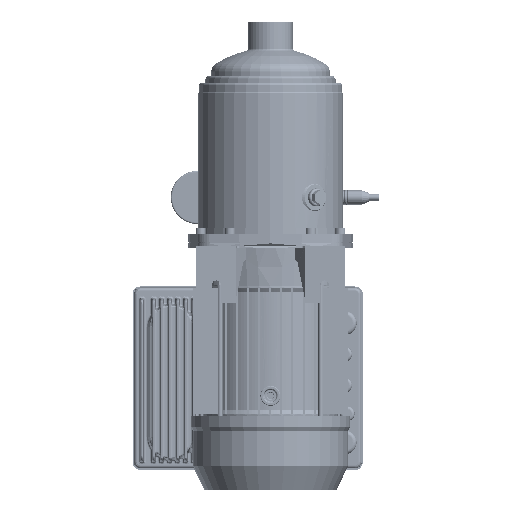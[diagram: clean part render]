
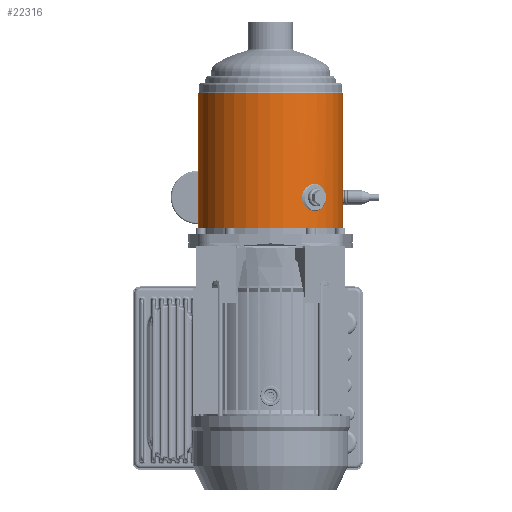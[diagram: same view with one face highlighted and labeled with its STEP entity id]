
A CAD part, front view. The second image highlights one B-rep face of the part: STEP entity #22316.
In plain terms, the highlighted cylindrical face has radius 72 mm (diameter 144 mm), a partial arc.
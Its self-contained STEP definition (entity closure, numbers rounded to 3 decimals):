
#19451=CARTESIAN_POINT('',(0.,8.4,0.));
#19452=DIRECTION('',(0.,1.,0.));
#19453=DIRECTION('',(0.,0.,-1.));
#19454=AXIS2_PLACEMENT_3D('',#19451,#19452,#19453);
#19525=DIRECTION('',(0.,1.,0.));
#19526=VECTOR('',#19525,134.614);
#19527=CARTESIAN_POINT('',(0.,8.4,-72.));
#19528=LINE('',#19527,#19526);
#19532=DIRECTION('',(0.,-1.,0.));
#19533=VECTOR('',#19532,134.614);
#19534=CARTESIAN_POINT('',(0.,143.014,72.));
#19535=LINE('',#19534,#19533);
#19539=CARTESIAN_POINT('',(-64.772,39.,
31.441));
#19540=CARTESIAN_POINT('',(-64.772,37.551,
31.441));
#19541=CARTESIAN_POINT('',(-64.552,34.753,
31.901));
#19542=CARTESIAN_POINT('',(-63.436,30.588,
34.11));
#19543=CARTESIAN_POINT('',(-61.387,27.256,
37.728));
#19544=CARTESIAN_POINT('',(-58.476,25.423,
42.129));
#19545=CARTESIAN_POINT('',(-55.02,25.424,
46.552));
#19546=CARTESIAN_POINT('',(-51.454,27.259,
50.441));
#19547=CARTESIAN_POINT('',(-48.44,30.593,
53.303));
#19548=CARTESIAN_POINT('',(-46.568,34.76,
54.919));
#19549=CARTESIAN_POINT('',(-46.177,37.554,
55.242));
#19550=CARTESIAN_POINT('',(-46.177,39.,
55.242));
#19555=CARTESIAN_POINT('',(-46.177,39.,
55.242));
#19556=CARTESIAN_POINT('',(-46.177,40.449,
55.242));
#19557=CARTESIAN_POINT('',(-46.57,43.247,
54.917));
#19558=CARTESIAN_POINT('',(-48.443,47.412,
53.3));
#19559=CARTESIAN_POINT('',(-51.458,50.744,
50.436));
#19560=CARTESIAN_POINT('',(-55.024,52.577,
46.547));
#19561=CARTESIAN_POINT('',(-58.48,52.576,
42.123));
#19562=CARTESIAN_POINT('',(-61.39,50.741,
37.722));
#19563=CARTESIAN_POINT('',(-63.438,47.407,
34.106));
#19564=CARTESIAN_POINT('',(-64.554,43.24,
31.898));
#19565=CARTESIAN_POINT('',(-64.772,40.446,
31.441));
#19566=CARTESIAN_POINT('',(-64.772,39.,
31.441));
#19579=CARTESIAN_POINT('',(0.,143.014,0.));
#19580=DIRECTION('',(0.,-1.,0.));
#19581=DIRECTION('',(0.,0.,1.));
#19582=AXIS2_PLACEMENT_3D('',#19579,#19580,#19581);
#21571=CARTESIAN_POINT('',(0.,8.4,72.));
#21572=CARTESIAN_POINT('',(0.,8.4,-72.));
#21573=VERTEX_POINT('',#21571);
#21574=VERTEX_POINT('',#21572);
#21575=CARTESIAN_POINT('',(0.,143.014,-72.));
#21576=VERTEX_POINT('',#21575);
#21577=CARTESIAN_POINT('',(0.,143.014,72.));
#21578=VERTEX_POINT('',#21577);
#21583=VERTEX_POINT('',#19539);
#21584=VERTEX_POINT('',#19550);
#22298=CARTESIAN_POINT('',(0.,145.707,0.));
#22299=DIRECTION('',(0.,-1.,0.));
#22300=DIRECTION('',(0.,0.,1.));
#22301=AXIS2_PLACEMENT_3D('',#22298,#22299,#22300);
#22302=CYLINDRICAL_SURFACE('',#22301,72.);
#22303=ORIENTED_EDGE('',*,*,#22276,.T.);
#22305=ORIENTED_EDGE('',*,*,#22304,.F.);
#22306=ORIENTED_EDGE('',*,*,#22279,.T.);
#22307=ORIENTED_EDGE('',*,*,#22266,.F.);
#22308=EDGE_LOOP('',(#22303,#22305,#22306,#22307));
#22309=FACE_OUTER_BOUND('',#22308,.F.);
#22311=ORIENTED_EDGE('',*,*,#22310,.T.);
#22313=ORIENTED_EDGE('',*,*,#22312,.T.);
#22314=EDGE_LOOP('',(#22311,#22313));
#22315=FACE_BOUND('',#22314,.F.);
#19455=CIRCLE('',#19454,72.);
#19551=B_SPLINE_CURVE_WITH_KNOTS('',3,(#19539,#19540,#19541,#19542,#19543,
#19544,#19545,#19546,#19547,#19548,#19549,#19550),.UNSPECIFIED.,.F.,.F.,(4,1,1,
1,1,1,1,1,1,4),(0.,0.111,0.222,0.333,
0.444,0.556,0.667,0.778,
0.889,1.),.UNSPECIFIED.);
#19567=B_SPLINE_CURVE_WITH_KNOTS('',3,(#19555,#19556,#19557,#19558,#19559,
#19560,#19561,#19562,#19563,#19564,#19565,#19566),.UNSPECIFIED.,.F.,.F.,(4,1,1,
1,1,1,1,1,1,4),(0.,0.111,0.222,0.333,
0.444,0.556,0.667,0.778,
0.889,1.),.UNSPECIFIED.);
#19583=CIRCLE('',#19582,72.);
#22266=EDGE_CURVE('',#21574,#21573,#19455,.T.);
#22276=EDGE_CURVE('',#21574,#21576,#19528,.T.);
#22279=EDGE_CURVE('',#21578,#21573,#19535,.T.);
#22304=EDGE_CURVE('',#21578,#21576,#19583,.T.);
#22310=EDGE_CURVE('',#21583,#21584,#19551,.T.);
#22312=EDGE_CURVE('',#21584,#21583,#19567,.T.);
#22316=ADVANCED_FACE('',(#22309,#22315),#22302,.T.);
